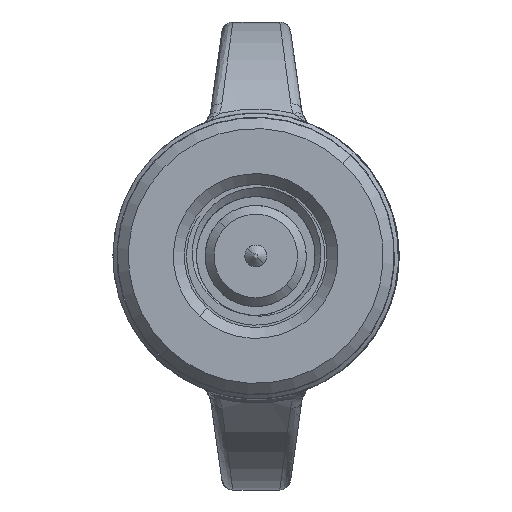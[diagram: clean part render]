
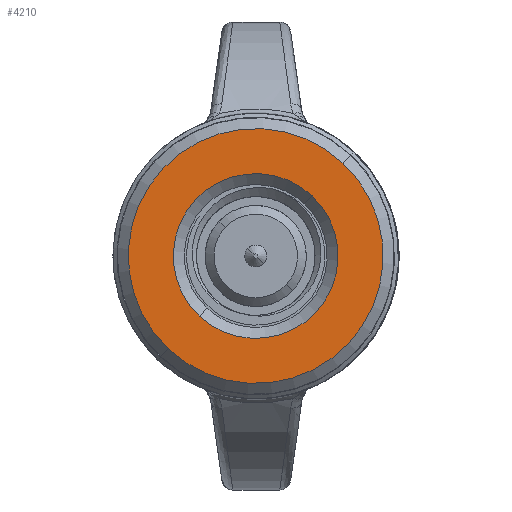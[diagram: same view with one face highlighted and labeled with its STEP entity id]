
A CAD part, front view. The second image highlights one B-rep face of the part: STEP entity #4210.
In plain terms, the highlighted planar face has unit normal (0, -1, 0).
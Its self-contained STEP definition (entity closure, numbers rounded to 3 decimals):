
#706 = VERTEX_POINT ( 'NONE', #6724 ) ;
#790 = PLANE ( 'NONE',  #3179 ) ;
#795 = CARTESIAN_POINT ( 'NONE',  ( -26., -119.55, -8.867 ) ) ;
#991 = CIRCLE ( 'NONE', #10600, 5.8 ) ;
#1041 = CIRCLE ( 'NONE', #8616, 3.75 ) ;
#1306 = DIRECTION ( 'NONE',  ( 0., 1., 0. ) ) ;
#1405 = VERTEX_POINT ( 'NONE', #3645 ) ;
#1425 = VERTEX_POINT ( 'NONE', #3169 ) ;
#1619 = FACE_OUTER_BOUND ( 'NONE', #9033, .T. ) ;
#1687 = ORIENTED_EDGE ( 'NONE', *, *, #9339, .F. ) ;
#1692 = CARTESIAN_POINT ( 'NONE',  ( -26., -119.55, -3.067 ) ) ;
#1866 = AXIS2_PLACEMENT_3D ( 'NONE', #1692, #5877, #5140 ) ;
#1953 = EDGE_LOOP ( 'NONE', ( #3834, #10821 ) ) ;
#3169 = CARTESIAN_POINT ( 'NONE',  ( -26., -119.55, 0.683 ) ) ;
#3179 = AXIS2_PLACEMENT_3D ( 'NONE', #7685, #3368, #5968 ) ;
#3368 = DIRECTION ( 'NONE',  ( 0., -1., 0. ) ) ;
#3585 = EDGE_CURVE ( 'NONE', #706, #1425, #1041, .T. ) ;
#3645 = CARTESIAN_POINT ( 'NONE',  ( -26., -119.55, 2.733 ) ) ;
#3834 = ORIENTED_EDGE ( 'NONE', *, *, #3585, .T. ) ;
#3961 = CARTESIAN_POINT ( 'NONE',  ( -26., -119.55, -3.067 ) ) ;
#4210 = ADVANCED_FACE ( 'NONE', ( #5914, #1619 ), #790, .T. ) ;
#5038 = CIRCLE ( 'NONE', #5395, 3.75 ) ;
#5140 = DIRECTION ( 'NONE',  ( 0., 0., 1. ) ) ;
#5216 = DIRECTION ( 'NONE',  ( 0., 0., -1. ) ) ;
#5270 = DIRECTION ( 'NONE',  ( 0., 0., -1. ) ) ;
#5395 = AXIS2_PLACEMENT_3D ( 'NONE', #7145, #10593, #5216 ) ;
#5877 = DIRECTION ( 'NONE',  ( 0., 1., 0. ) ) ;
#5914 = FACE_BOUND ( 'NONE', #1953, .T. ) ;
#5968 = DIRECTION ( 'NONE',  ( 0., 0., -1. ) ) ;
#6232 = ORIENTED_EDGE ( 'NONE', *, *, #8532, .F. ) ;
#6724 = CARTESIAN_POINT ( 'NONE',  ( -26., -119.55, -6.817 ) ) ;
#7042 = DIRECTION ( 'NONE',  ( 0., 1., 0. ) ) ;
#7109 = EDGE_CURVE ( 'NONE', #1425, #706, #5038, .T. ) ;
#7145 = CARTESIAN_POINT ( 'NONE',  ( -26., -119.55, -3.067 ) ) ;
#7685 = CARTESIAN_POINT ( 'NONE',  ( -31.549, -119.55, -2.963 ) ) ;
#8532 = EDGE_CURVE ( 'NONE', #1405, #9586, #991, .T. ) ;
#8616 = AXIS2_PLACEMENT_3D ( 'NONE', #10594, #7042, #5270 ) ;
#8955 = DIRECTION ( 'NONE',  ( 0., 0., 1. ) ) ;
#9033 = EDGE_LOOP ( 'NONE', ( #6232, #1687 ) ) ;
#9116 = CIRCLE ( 'NONE', #1866, 5.8 ) ;
#9339 = EDGE_CURVE ( 'NONE', #9586, #1405, #9116, .T. ) ;
#9586 = VERTEX_POINT ( 'NONE', #795 ) ;
#10593 = DIRECTION ( 'NONE',  ( 0., 1., 0. ) ) ;
#10594 = CARTESIAN_POINT ( 'NONE',  ( -26., -119.55, -3.067 ) ) ;
#10600 = AXIS2_PLACEMENT_3D ( 'NONE', #3961, #1306, #8955 ) ;
#10821 = ORIENTED_EDGE ( 'NONE', *, *, #7109, .T. ) ;
